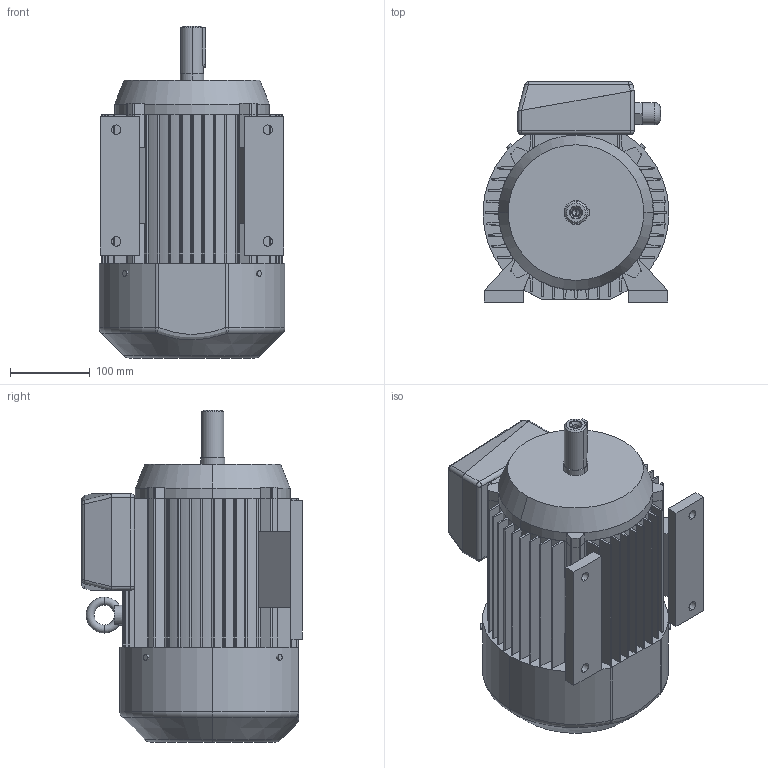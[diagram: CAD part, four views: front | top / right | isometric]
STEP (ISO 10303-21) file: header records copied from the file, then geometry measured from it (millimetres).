
FILE_DESCRIPTION (( 'STEP AP203' ), '1' );
FILE_NAME ('2SIE112M4.STEP', '2012-10-26T12:37:21', ( 'INDUKTA' ), ( 'CANTONI MOTOR' ), 'SwSTEP 2.0', 'SolidWorks 2003064', '' );
FILE_SCHEMA (( 'CONFIG_CONTROL_DESIGN' ));
Length unit declared in the file: millimetre
Products named in the file (1): 2SIE112M4
Bounding box: 233 x 276 x 416 mm (x, y, z)
Volume: 13499551 mm3; surface area: 781036.1 mm2
Topology: 14 solids, 14 shells, 441 faces, 1176 edges, 747 vertices
Faces by surface type: plane 204, cylinder 199, cone 14, torus 13, sphere 10, bspline 1
Entity records: 14615 total; most frequent: CARTESIAN_POINT 3388, DIRECTION 2408, ORIENTED_EDGE 2328, EDGE_CURVE 1164, AXIS2_PLACEMENT_3D 854, VERTEX_POINT 747, LINE 700, VECTOR 700
